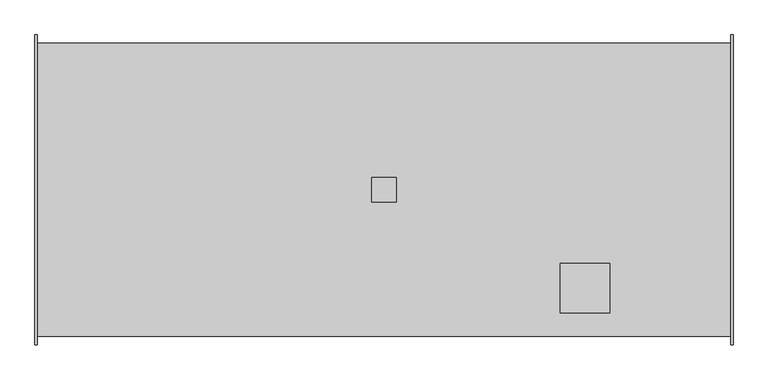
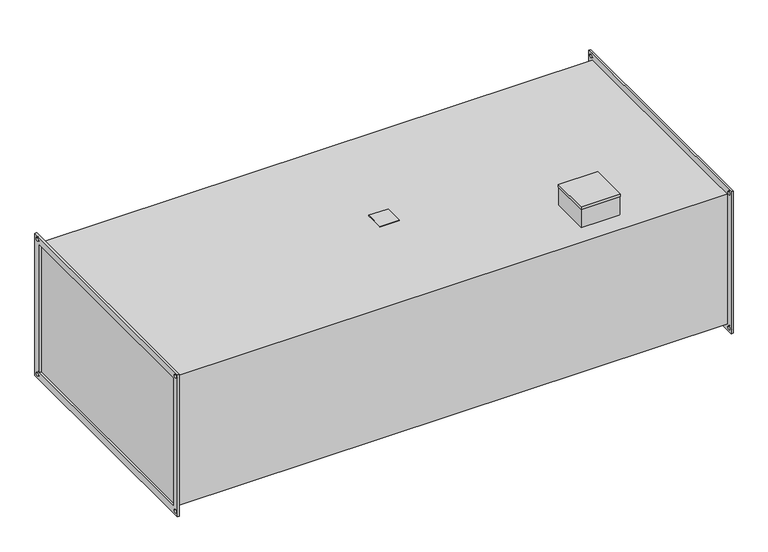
"""IFC4 building model written with IfcOpenShell, lengths in millimetres: damper geometry, KORF_Секция бактерицидной обработки воздуха_SBOW : SBOW 60-35/143."""

from ifc_helpers import new_model, si_unit, point, frame, frame_2d, origin, place, context, project, spatial, polyline, circle_curve, trimmed, segment, composite_curve, outline, extrude, faceted_brep, source, transform, mapped, element, save


def damper_cb683c6c(model_context):
    return source(origin(), model_context, "Body", "SolidModel", [
        extrude(outline(polyline([(695.0, -25.0), (695.0, 25.0), (745.0, 25.0), (745.0, -25.0), (695.0, -25.0)])), frame((0.0, 0.0, 178.0), z_axis=(0.0, 0.0, 1.0), x_axis=(1.0, 0.0, 0.0)), (0.0, 0.0, 1.0), 2.0),
        faceted_brep([(1186.0, -152.0, 235.0), (1084.0, -152.0, 235.0), (1084.0, -254.0, 235.0), (1186.0, -254.0, 235.0), (1186.0, -152.0, 228.0), (1186.0, -254.0, 228.0), (1084.0, -254.0, 228.0), (1084.0, -152.0, 228.0), (1185.0, -153.0, 228.0), (1085.0, -153.0, 228.0), (1085.0, -253.0, 228.0), (1185.0, -253.0, 228.0), (1185.0, -153.0, 178.0), (1185.0, -253.0, 178.0), (1085.0, -253.0, 178.0), (1085.0, -153.0, 178.0)], [[[0, 1, 2, 3]], [[4, 5, 6, 7], [8, 9, 10, 11]], [[1, 0, 4, 7]], [[2, 1, 7, 6]], [[3, 2, 6, 5]], [[0, 3, 5, 4]], [[12, 13, 14, 15]], [[12, 15, 9, 8]], [[15, 14, 10, 9]], [[14, 13, 11, 10]], [[13, 12, 8, 11]]]),
        extrude(outline(polyline([(-320.0, 195.0), (320.0, 195.0), (320.0, -195.0), (-320.0, -195.0), (-320.0, 195.0)]), holes=[polyline([(-300.0, 175.0), (-300.0, -175.0), (300.0, -175.0), (300.0, 175.0), (-300.0, 175.0)]), composite_curve([segment(trimmed(circle_curve(frame_2d((310.0, 185.0)), 4.5), [point((305.5, 185.0))], [point((314.5, 185.0))], True, "CARTESIAN"), True, "CONTINUOUS"), segment(trimmed(circle_curve(frame_2d((310.0, 185.0)), 4.5), [point((314.5, 185.0))], [point((305.5, 185.0))], True, "CARTESIAN"), True, "CONTINUOUS")], self_intersect=False), composite_curve([segment(trimmed(circle_curve(frame_2d((-310.0, 185.0)), 4.5), [point((-314.5, 185.0))], [point((-305.5, 185.0))], True, "CARTESIAN"), True, "CONTINUOUS"), segment(trimmed(circle_curve(frame_2d((-310.0, 185.0)), 4.5), [point((-305.5, 185.0))], [point((-314.5, 185.0))], True, "CARTESIAN"), True, "CONTINUOUS")], self_intersect=False), composite_curve([segment(trimmed(circle_curve(frame_2d((-310.0, -185.0)), 4.5), [point((-314.5, -185.0))], [point((-305.5, -185.0))], True, "CARTESIAN"), True, "CONTINUOUS"), segment(trimmed(circle_curve(frame_2d((-310.0, -185.0)), 4.5), [point((-305.5, -185.0))], [point((-314.5, -185.0))], True, "CARTESIAN"), True, "CONTINUOUS")], self_intersect=False), composite_curve([segment(trimmed(circle_curve(frame_2d((310.0, -185.0)), 4.5), [point((305.5, -185.0))], [point((314.5, -185.0))], True, "CARTESIAN"), True, "CONTINUOUS"), segment(trimmed(circle_curve(frame_2d((310.0, -185.0)), 4.5), [point((314.5, -185.0))], [point((305.5, -185.0))], True, "CARTESIAN"), True, "CONTINUOUS")], self_intersect=False)]), frame((1435.0, 0.0, 0.0), z_axis=(1.0, 0.0, 0.0), x_axis=(0.0, 1.0, 0.0)), (0.0, 0.0, 1.0), 5.0),
        extrude(outline(polyline([(-320.0, 195.0), (320.0, 195.0), (320.0, -195.0), (-320.0, -195.0), (-320.0, 195.0)]), holes=[polyline([(-300.0, 175.0), (-300.0, -175.0), (300.0, -175.0), (300.0, 175.0), (-300.0, 175.0)]), composite_curve([segment(trimmed(circle_curve(frame_2d((310.0, 185.0)), 4.5), [point((305.5, 185.0))], [point((314.5, 185.0))], True, "CARTESIAN"), True, "CONTINUOUS"), segment(trimmed(circle_curve(frame_2d((310.0, 185.0)), 4.5), [point((314.5, 185.0))], [point((305.5, 185.0))], True, "CARTESIAN"), True, "CONTINUOUS")], self_intersect=False), composite_curve([segment(trimmed(circle_curve(frame_2d((-310.0, 185.0)), 4.5), [point((-314.5, 185.0))], [point((-305.5, 185.0))], True, "CARTESIAN"), True, "CONTINUOUS"), segment(trimmed(circle_curve(frame_2d((-310.0, 185.0)), 4.5), [point((-305.5, 185.0))], [point((-314.5, 185.0))], True, "CARTESIAN"), True, "CONTINUOUS")], self_intersect=False), composite_curve([segment(trimmed(circle_curve(frame_2d((-310.0, -185.0)), 4.5), [point((-314.5, -185.0))], [point((-305.5, -185.0))], True, "CARTESIAN"), True, "CONTINUOUS"), segment(trimmed(circle_curve(frame_2d((-310.0, -185.0)), 4.5), [point((-305.5, -185.0))], [point((-314.5, -185.0))], True, "CARTESIAN"), True, "CONTINUOUS")], self_intersect=False), composite_curve([segment(trimmed(circle_curve(frame_2d((310.0, -185.0)), 4.5), [point((305.5, -185.0))], [point((314.5, -185.0))], True, "CARTESIAN"), True, "CONTINUOUS"), segment(trimmed(circle_curve(frame_2d((310.0, -185.0)), 4.5), [point((314.5, -185.0))], [point((305.5, -185.0))], True, "CARTESIAN"), True, "CONTINUOUS")], self_intersect=False)]), frame((0.0, 0.0, 0.0), z_axis=(1.0, 0.0, 0.0), x_axis=(0.0, 1.0, 0.0)), (0.0, 0.0, 1.0), 5.0),
        extrude(outline(polyline([(1435.0, 303.0), (1435.0, -303.0), (5.0, -303.0), (5.0, 303.0), (1435.0, 303.0)])), frame((0.0, 0.0, -178.0), z_axis=(0.0, 0.0, 1.0), x_axis=(1.0, 0.0, 0.0)), (0.0, 0.0, 1.0), 356.0),
    ])


if __name__ == "__main__":
    model = new_model("IFC4")
    model_context = context("Model", 3, world=origin())
    ifc_project = project(units=[si_unit("LENGTHUNIT", "METRE", prefix="MILLI")], contexts=[model_context])
    site = spatial("IfcSite", under=ifc_project)
    building = spatial("IfcBuilding", under=site)
    placement = place(None, origin())
    damper_shape = damper_cb683c6c(model_context)
    element("IfcDamper", 1, ObjectType="KORF_Секция бактерицидной обработки воздуха_SBOW : SBOW 60-35/143", at=placement, inside=building, context=model_context, shape_type="MappedRepresentation", body=[
        mapped(damper_shape, transform((0.0, 0.0, 0.0), x_axis=(1.0, 0.0, 0.0), y_axis=(0.0, 1.0, 0.0), z_axis=(0.0, 0.0, 1.0))),
    ])
    save(model, "model.ifc")
